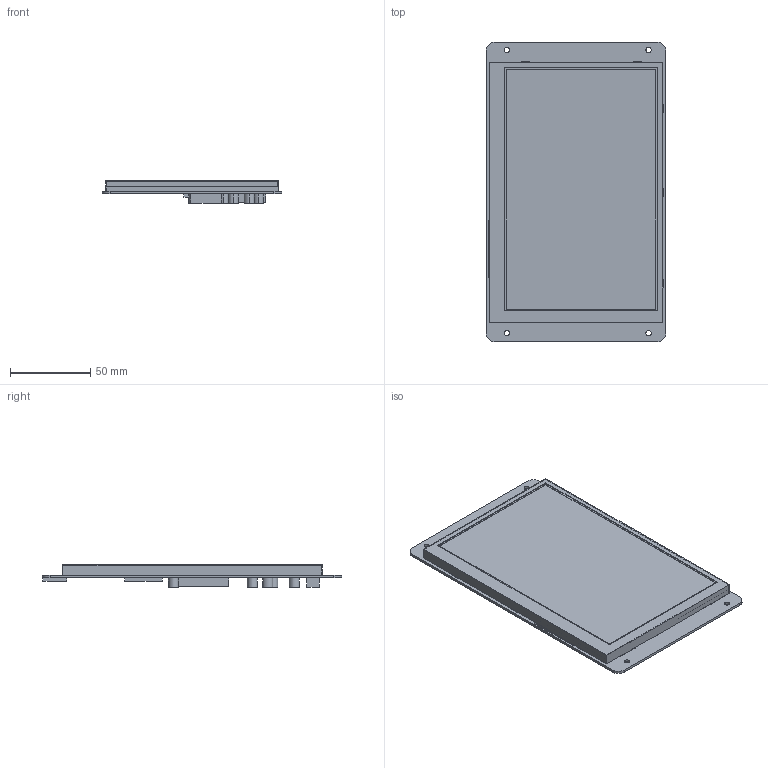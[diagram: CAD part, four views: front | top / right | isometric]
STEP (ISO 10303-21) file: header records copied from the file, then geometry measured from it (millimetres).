
FILE_DESCRIPTION((''),'2;1');
FILE_NAME('3D-DMG12800T070-01WTR','2022-07-15T',('Administrator'),(''),'PRO/ENGINEER BY PARAMETRIC TECHNOLOGY CORPORATION, 2011310','PRO/ENGINEER BY PARAMETRIC TECHNOLOGY CORPORATION, 2011310','');
FILE_SCHEMA(('CONFIG_CONTROL_DESIGN','SHAPE_APPEARANCE_LAYERS_GROUPS'));
Length unit declared in the file: millimetre
Products named in the file (1): 3D-DMG12800T070-01WTR
Bounding box: 112.14 x 186.94 x 14 mm (x, y, z)
Volume: 101509.5 mm3; surface area: 89001.4 mm2
Topology: 1 solids, 1 shells, 151 faces, 456 edges, 292 vertices
Faces by surface type: plane 123, cylinder 28
Entity records: 6093 total; most frequent: ORIENTED_EDGE 912, CARTESIAN_POINT 899, DIRECTION 826, EDGE_CURVE 456, VECTOR 388, LINE 388, VERTEX_POINT 292, AXIS2_PLACEMENT_3D 219
